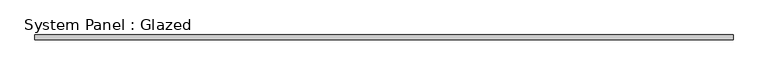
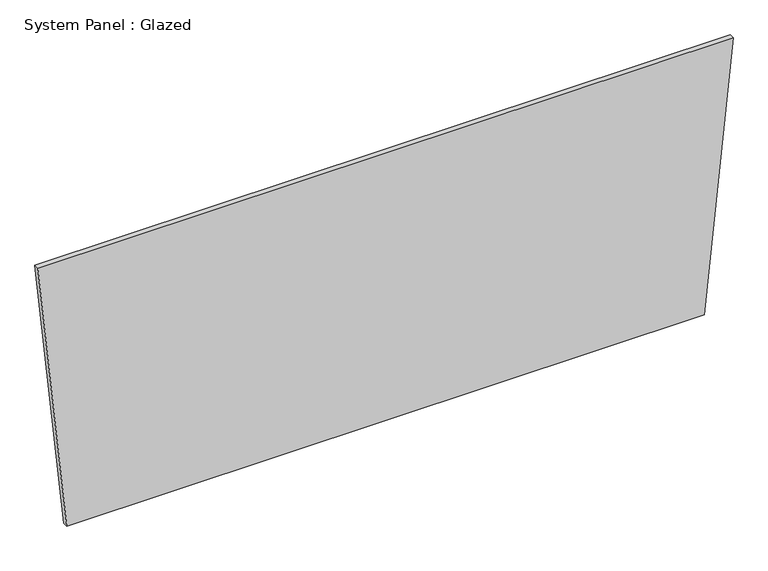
"""IFC4 building model written with IfcOpenShell, lengths in millimetres: plate geometry, System Panel : Glazed."""

from ifc_helpers import new_model, si_unit, frame, origin, place, context, project, spatial, polyline, outline, extrude, source, transform, mapped, element, save


def system_panel_glazed_65fa72c3(model_context):
    return source(origin(), model_context, "Body", "SweptSolid", [
        extrude(outline(polyline([(0.0, -1636.3178536), (0.0, 1636.3178536), (1452.5741974, 1785.0420349), (1452.5741974, -1785.0420349), (0.0, -1636.3178536)])), frame((0.0, 19.05, 0.0), z_axis=(0.0, 1.0, 0.0), x_axis=(0.0, 0.0, 1.0)), (0.0, 0.0, 1.0), 25.4),
    ])


if __name__ == "__main__":
    model = new_model("IFC4")
    model_context = context("Model", 3, world=origin())
    ifc_project = project(units=[si_unit("LENGTHUNIT", "METRE", prefix="MILLI")], contexts=[model_context])
    site = spatial("IfcSite", under=ifc_project)
    building = spatial("IfcBuilding", under=site)
    placement = place(None, origin())
    system_panel_glazed_shape = system_panel_glazed_65fa72c3(model_context)
    element("IfcPlate", 1, ObjectType="System Panel : Glazed", at=placement, inside=building, context=model_context, shape_type="MappedRepresentation", body=[
        mapped(system_panel_glazed_shape, transform((0.0, 0.0, 0.0), x_axis=(1.0, 0.0, 0.0), y_axis=(0.0, 1.0, 0.0), z_axis=(0.0, 0.0, 1.0))),
    ])
    save(model, "model.ifc")
